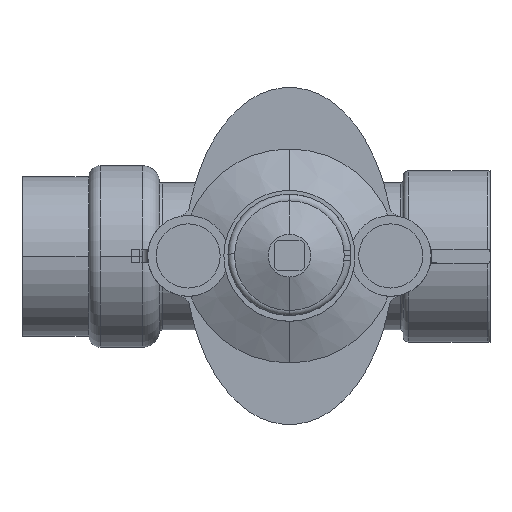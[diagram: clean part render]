
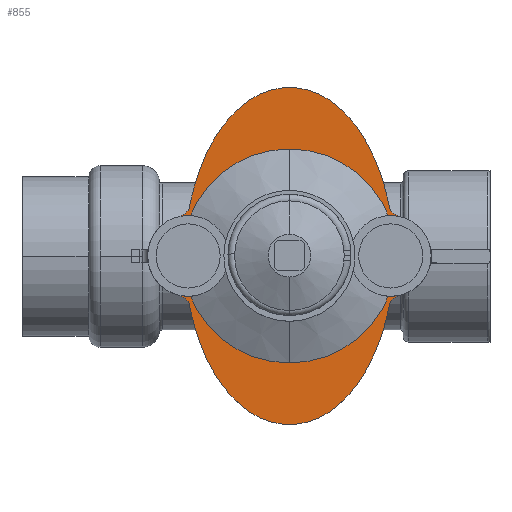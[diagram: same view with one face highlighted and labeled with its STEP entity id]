
A CAD part, top view. The second image highlights one B-rep face of the part: STEP entity #855.
In plain terms, the highlighted planar face has unit normal (0, 0, 1).
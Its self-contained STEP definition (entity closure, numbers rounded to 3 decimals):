
#855=ADVANCED_FACE('',(#1755),#1756,.T.);
#1755=FACE_OUTER_BOUND('',#2973,.T.);
#1756=PLANE('',#2974);
#2973=EDGE_LOOP('',(#4324,#4325,#4326,#4327,#4328,#4329,#4330,#4331,#4332,#4333,#4334,#4335,#4336,#4337,#4338,#4339,#4340,#4341,#4342,#4343,#4344,#4345,#4346,#4347,#4348,#4349));
#2974=AXIS2_PLACEMENT_3D('',#4350,#4351,#4352);
#4324=ORIENTED_EDGE('',*,*,#6865,.F.);
#4325=ORIENTED_EDGE('',*,*,#6866,.F.);
#4326=ORIENTED_EDGE('',*,*,#6867,.F.);
#4327=ORIENTED_EDGE('',*,*,#6868,.F.);
#4328=ORIENTED_EDGE('',*,*,#6869,.F.);
#4329=ORIENTED_EDGE('',*,*,#6870,.F.);
#4330=ORIENTED_EDGE('',*,*,#6834,.F.);
#4331=ORIENTED_EDGE('',*,*,#6871,.F.);
#4332=ORIENTED_EDGE('',*,*,#6872,.F.);
#4333=ORIENTED_EDGE('',*,*,#6873,.F.);
#4334=ORIENTED_EDGE('',*,*,#6874,.F.);
#4335=ORIENTED_EDGE('',*,*,#6875,.F.);
#4336=ORIENTED_EDGE('',*,*,#6876,.F.);
#4337=ORIENTED_EDGE('',*,*,#6877,.F.);
#4338=ORIENTED_EDGE('',*,*,#6878,.F.);
#4339=ORIENTED_EDGE('',*,*,#6879,.F.);
#4340=ORIENTED_EDGE('',*,*,#6880,.F.);
#4341=ORIENTED_EDGE('',*,*,#6881,.F.);
#4342=ORIENTED_EDGE('',*,*,#6882,.F.);
#4343=ORIENTED_EDGE('',*,*,#6883,.F.);
#4344=ORIENTED_EDGE('',*,*,#6630,.F.);
#4345=ORIENTED_EDGE('',*,*,#6884,.F.);
#4346=ORIENTED_EDGE('',*,*,#6809,.F.);
#4347=ORIENTED_EDGE('',*,*,#6688,.F.);
#4348=ORIENTED_EDGE('',*,*,#6885,.F.);
#4349=ORIENTED_EDGE('',*,*,#6886,.F.);
#4350=CARTESIAN_POINT('',(100.0,0.,98.591));
#4351=DIRECTION('',(0.0,0.0,1.0));
#4352=DIRECTION('',(1.0,0.0,0.0));
#6630=EDGE_CURVE('',#7794,#7795,#7796,.T.);
#6688=EDGE_CURVE('',#7893,#7894,#7895,.T.);
#6809=EDGE_CURVE('',#7894,#8092,#8093,.T.);
#6834=EDGE_CURVE('',#8134,#8135,#8136,.T.);
#6865=EDGE_CURVE('',#8184,#8185,#8186,.T.);
#6866=EDGE_CURVE('',#8187,#8184,#8188,.T.);
#6867=EDGE_CURVE('',#8189,#8187,#8190,.T.);
#6868=EDGE_CURVE('',#8191,#8189,#8192,.T.);
#6869=EDGE_CURVE('',#8193,#8191,#8194,.T.);
#6870=EDGE_CURVE('',#8135,#8193,#8195,.T.);
#6871=EDGE_CURVE('',#8196,#8134,#8197,.T.);
#6872=EDGE_CURVE('',#8198,#8196,#8199,.T.);
#6873=EDGE_CURVE('',#8200,#8198,#8201,.T.);
#6874=EDGE_CURVE('',#8202,#8200,#8203,.T.);
#6875=EDGE_CURVE('',#8204,#8202,#8205,.T.);
#6876=EDGE_CURVE('',#8206,#8204,#8207,.T.);
#6877=EDGE_CURVE('',#8208,#8206,#8209,.T.);
#6878=EDGE_CURVE('',#8210,#8208,#8211,.T.);
#6879=EDGE_CURVE('',#8212,#8210,#8213,.T.);
#6880=EDGE_CURVE('',#8214,#8212,#8215,.T.);
#6881=EDGE_CURVE('',#8216,#8214,#8217,.T.);
#6882=EDGE_CURVE('',#8218,#8216,#8219,.T.);
#6883=EDGE_CURVE('',#7795,#8218,#8220,.T.);
#6884=EDGE_CURVE('',#8092,#7794,#8221,.T.);
#6885=EDGE_CURVE('',#8222,#7893,#8223,.T.);
#6886=EDGE_CURVE('',#8185,#8222,#8224,.T.);
#7794=VERTEX_POINT('',#9402);
#7795=VERTEX_POINT('',#9403);
#7796=CIRCLE('',#9404,91.763);
#7893=VERTEX_POINT('',#9529);
#7894=VERTEX_POINT('',#9530);
#7895=CIRCLE('',#9531,39.);
#8092=VERTEX_POINT('',#9766);
#8093=CIRCLE('',#9767,55.178);
#8134=VERTEX_POINT('',#9821);
#8135=VERTEX_POINT('',#9822);
#8136=CIRCLE('',#9823,5.);
#8184=VERTEX_POINT('',#9876);
#8185=VERTEX_POINT('',#9877);
#8186=CIRCLE('',#9878,55.178);
#8187=VERTEX_POINT('',#9879);
#8188=CIRCLE('',#9880,75.);
#8189=VERTEX_POINT('',#9881);
#8190=CIRCLE('',#9882,91.76);
#8191=VERTEX_POINT('',#9883);
#8192=CIRCLE('',#9884,5.);
#8193=VERTEX_POINT('',#9885);
#8194=CIRCLE('',#9886,15.111);
#8195=CIRCLE('',#9887,15.111);
#8196=VERTEX_POINT('',#9888);
#8197=CIRCLE('',#9889,91.763);
#8198=VERTEX_POINT('',#9890);
#8199=CIRCLE('',#9891,75.);
#8200=VERTEX_POINT('',#9892);
#8201=CIRCLE('',#9893,55.178);
#8202=VERTEX_POINT('',#9894);
#8203=CIRCLE('',#9895,39.);
#8204=VERTEX_POINT('',#9896);
#8205=CIRCLE('',#9897,26.049);
#8206=VERTEX_POINT('',#9898);
#8207=CIRCLE('',#9899,39.);
#8208=VERTEX_POINT('',#9900);
#8209=CIRCLE('',#9901,55.178);
#8210=VERTEX_POINT('',#9902);
#8211=CIRCLE('',#9903,75.);
#8212=VERTEX_POINT('',#9904);
#8213=CIRCLE('',#9905,91.76);
#8214=VERTEX_POINT('',#9906);
#8215=CIRCLE('',#9907,5.);
#8216=VERTEX_POINT('',#9908);
#8217=CIRCLE('',#9909,15.111);
#8218=VERTEX_POINT('',#9910);
#8219=CIRCLE('',#9911,15.111);
#8220=CIRCLE('',#9912,5.);
#8221=CIRCLE('',#9913,75.);
#8222=VERTEX_POINT('',#9914);
#8223=CIRCLE('',#9915,26.049);
#8224=CIRCLE('',#9916,39.);
#9402=CARTESIAN_POINT('',(64.851,-27.413,98.591));
#9403=CARTESIAN_POINT('',(62.726,-18.702,98.591));
#9404=AXIS2_PLACEMENT_3D('',#11270,#11271,#11272);
#9529=CARTESIAN_POINT('',(85.166,-58.364,98.591));
#9530=CARTESIAN_POINT('',(77.315,-51.343,98.591));
#9531=AXIS2_PLACEMENT_3D('',#11343,#11344,#11345);
#9766=CARTESIAN_POINT('',(70.315,-40.959,98.591));
#9767=AXIS2_PLACEMENT_3D('',#11543,#11544,#11545);
#9821=CARTESIAN_POINT('',(137.274,18.702,98.591));
#9822=CARTESIAN_POINT('',(141.116,14.763,98.591));
#9823=AXIS2_PLACEMENT_3D('',#11577,#11578,#11579);
#9876=CARTESIAN_POINT('',(129.685,-40.959,98.591));
#9877=CARTESIAN_POINT('',(122.685,-51.343,98.591));
#9878=AXIS2_PLACEMENT_3D('',#11639,#11640,#11641);
#9879=CARTESIAN_POINT('',(135.149,-27.413,98.591));
#9880=AXIS2_PLACEMENT_3D('',#11642,#11643,#11644);
#9881=CARTESIAN_POINT('',(137.274,-18.702,98.591));
#9882=AXIS2_PLACEMENT_3D('',#11645,#11646,#11647);
#9883=CARTESIAN_POINT('',(141.116,-14.763,98.591));
#9884=AXIS2_PLACEMENT_3D('',#11648,#11649,#11650);
#9885=CARTESIAN_POINT('',(153.,0.,98.591));
#9886=AXIS2_PLACEMENT_3D('',#11651,#11652,#11653);
#9887=AXIS2_PLACEMENT_3D('',#11654,#11655,#11656);
#9888=CARTESIAN_POINT('',(135.149,27.413,98.591));
#9889=AXIS2_PLACEMENT_3D('',#11657,#11658,#11659);
#9890=CARTESIAN_POINT('',(129.685,40.959,98.591));
#9891=AXIS2_PLACEMENT_3D('',#11660,#11661,#11662);
#9892=CARTESIAN_POINT('',(122.685,51.343,98.591));
#9893=AXIS2_PLACEMENT_3D('',#11663,#11664,#11665);
#9894=CARTESIAN_POINT('',(114.834,58.364,98.591));
#9895=AXIS2_PLACEMENT_3D('',#11666,#11667,#11668);
#9896=CARTESIAN_POINT('',(85.166,58.364,98.591));
#9897=AXIS2_PLACEMENT_3D('',#11669,#11670,#11671);
#9898=CARTESIAN_POINT('',(77.315,51.343,98.591));
#9899=AXIS2_PLACEMENT_3D('',#11672,#11673,#11674);
#9900=CARTESIAN_POINT('',(70.315,40.959,98.591));
#9901=AXIS2_PLACEMENT_3D('',#11675,#11676,#11677);
#9902=CARTESIAN_POINT('',(64.851,27.413,98.591));
#9903=AXIS2_PLACEMENT_3D('',#11678,#11679,#11680);
#9904=CARTESIAN_POINT('',(62.726,18.702,98.591));
#9905=AXIS2_PLACEMENT_3D('',#11681,#11682,#11683);
#9906=CARTESIAN_POINT('',(58.884,14.763,98.591));
#9907=AXIS2_PLACEMENT_3D('',#11684,#11685,#11686);
#9908=CARTESIAN_POINT('',(47.,0.,98.591));
#9909=AXIS2_PLACEMENT_3D('',#11687,#11688,#11689);
#9910=CARTESIAN_POINT('',(58.884,-14.763,98.591));
#9911=AXIS2_PLACEMENT_3D('',#11690,#11691,#11692);
#9912=AXIS2_PLACEMENT_3D('',#11693,#11694,#11695);
#9913=AXIS2_PLACEMENT_3D('',#11696,#11697,#11698);
#9914=CARTESIAN_POINT('',(114.834,-58.364,98.591));
#9915=AXIS2_PLACEMENT_3D('',#11699,#11700,#11701);
#9916=AXIS2_PLACEMENT_3D('',#11702,#11703,#11704);
#11270=CARTESIAN_POINT('',(152.831,-1.336,98.591));
#11271=DIRECTION('',(0.0,0.0,-1.0));
#11272=DIRECTION('',(1.0,0.0,0.0));
#11343=CARTESIAN_POINT('',(106.998,-26.047,98.591));
#11344=DIRECTION('',(0.0,0.0,-1.0));
#11345=DIRECTION('',(1.0,0.0,0.0));
#11543=CARTESIAN_POINT('',(119.272,-15.508,98.591));
#11544=DIRECTION('',(0.0,0.0,-1.0));
#11545=DIRECTION('',(1.0,0.0,0.0));
#11577=CARTESIAN_POINT('',(142.184,19.647,98.591));
#11578=DIRECTION('',(0.0,0.0,1.0));
#11579=DIRECTION('',(-1.0,0.0,0.0));
#11639=CARTESIAN_POINT('',(80.728,-15.508,98.591));
#11640=DIRECTION('',(0.0,0.0,-1.0));
#11641=DIRECTION('',(1.0,0.0,0.0));
#11642=CARTESIAN_POINT('',(63.193,-6.264,98.591));
#11643=DIRECTION('',(0.0,0.0,-1.0));
#11644=DIRECTION('',(1.0,0.0,0.0));
#11645=CARTESIAN_POINT('',(47.172,-1.338,98.591));
#11646=DIRECTION('',(0.0,0.0,-1.0));
#11647=DIRECTION('',(1.0,0.0,0.0));
#11648=CARTESIAN_POINT('',(142.184,-19.647,98.591));
#11649=DIRECTION('',(0.0,0.0,1.0));
#11650=DIRECTION('',(-1.0,0.0,0.0));
#11651=CARTESIAN_POINT('',(137.889,0.0,98.591));
#11652=DIRECTION('',(0.0,0.0,-1.0));
#11653=DIRECTION('',(1.0,0.0,0.0));
#11654=CARTESIAN_POINT('',(137.889,0.0,98.591));
#11655=DIRECTION('',(0.0,0.0,-1.0));
#11656=DIRECTION('',(1.0,0.0,0.0));
#11657=CARTESIAN_POINT('',(47.169,1.336,98.591));
#11658=DIRECTION('',(0.0,0.0,-1.0));
#11659=DIRECTION('',(1.0,0.0,0.0));
#11660=CARTESIAN_POINT('',(63.193,6.264,98.591));
#11661=DIRECTION('',(0.0,0.0,-1.0));
#11662=DIRECTION('',(1.0,0.0,0.0));
#11663=CARTESIAN_POINT('',(80.728,15.508,98.591));
#11664=DIRECTION('',(0.0,0.0,-1.0));
#11665=DIRECTION('',(1.0,0.0,0.0));
#11666=CARTESIAN_POINT('',(93.002,26.047,98.591));
#11667=DIRECTION('',(0.0,0.0,-1.0));
#11668=DIRECTION('',(1.0,0.0,0.0));
#11669=CARTESIAN_POINT('',(100.0,36.951,98.591));
#11670=DIRECTION('',(0.0,0.0,-1.0));
#11671=DIRECTION('',(1.0,0.0,0.0));
#11672=CARTESIAN_POINT('',(106.998,26.047,98.591));
#11673=DIRECTION('',(0.0,0.0,-1.0));
#11674=DIRECTION('',(1.0,0.0,0.0));
#11675=CARTESIAN_POINT('',(119.272,15.508,98.591));
#11676=DIRECTION('',(0.0,0.0,-1.0));
#11677=DIRECTION('',(1.0,0.0,0.0));
#11678=CARTESIAN_POINT('',(136.807,6.264,98.591));
#11679=DIRECTION('',(0.0,0.0,-1.0));
#11680=DIRECTION('',(1.0,0.0,0.0));
#11681=CARTESIAN_POINT('',(152.828,1.338,98.591));
#11682=DIRECTION('',(0.0,0.0,-1.0));
#11683=DIRECTION('',(1.0,0.0,0.0));
#11684=CARTESIAN_POINT('',(57.816,19.647,98.591));
#11685=DIRECTION('',(0.0,0.0,1.0));
#11686=DIRECTION('',(-1.0,0.0,0.0));
#11687=CARTESIAN_POINT('',(62.111,0.0,98.591));
#11688=DIRECTION('',(0.0,0.0,-1.0));
#11689=DIRECTION('',(1.0,0.0,0.0));
#11690=CARTESIAN_POINT('',(62.111,0.0,98.591));
#11691=DIRECTION('',(0.0,0.0,-1.0));
#11692=DIRECTION('',(1.0,0.0,0.0));
#11693=CARTESIAN_POINT('',(57.816,-19.647,98.591));
#11694=DIRECTION('',(0.0,0.0,1.0));
#11695=DIRECTION('',(-1.0,0.0,0.0));
#11696=CARTESIAN_POINT('',(136.807,-6.264,98.591));
#11697=DIRECTION('',(0.0,0.0,-1.0));
#11698=DIRECTION('',(1.0,0.0,0.0));
#11699=CARTESIAN_POINT('',(100.0,-36.951,98.591));
#11700=DIRECTION('',(0.0,0.0,-1.0));
#11701=DIRECTION('',(1.0,0.0,0.0));
#11702=CARTESIAN_POINT('',(93.002,-26.047,98.591));
#11703=DIRECTION('',(0.0,0.0,-1.0));
#11704=DIRECTION('',(1.0,0.0,0.0));
